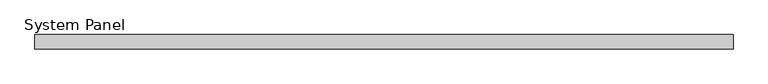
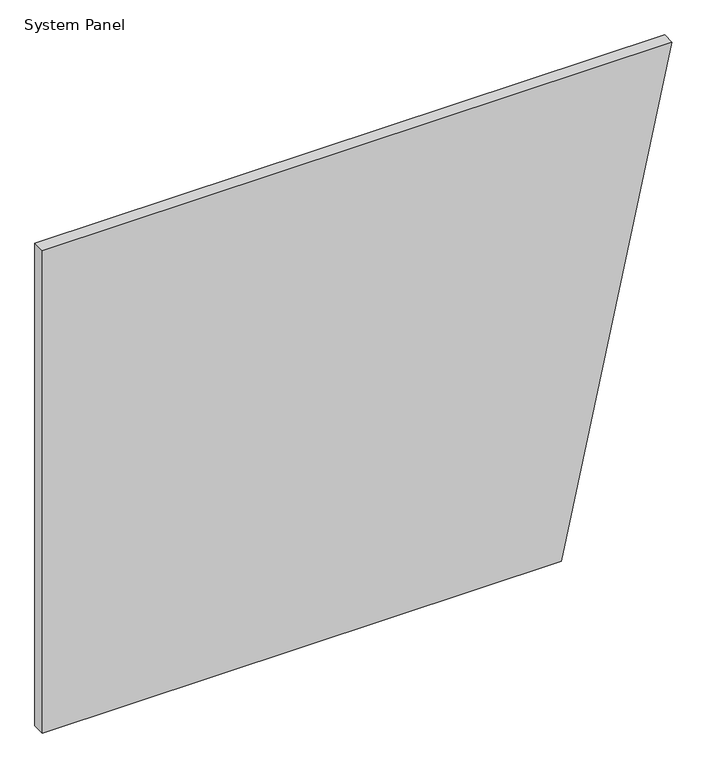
"""IFC4 building model written with IfcOpenShell, lengths in millimetres: plate geometry, System Panel : Purline 25mm Horizontal - Plain RHEA - PUR."""

from ifc_helpers import new_model, si_unit, frame, origin, place, context, project, spatial, polyline, outline, extrude, source, transform, mapped, element, save


def system_panel_ed235954(model_context):
    return source(origin(), model_context, "Body", "SweptSolid", [
        extrude(outline(polyline([(0.0, -617.3930515), (0.0, 400.0), (1000.0, 617.3930515), (1000.0, -617.3930515), (0.0, -617.3930515)])), frame((0.0, -25.0, 0.0), z_axis=(0.0, 1.0, 0.0), x_axis=(0.0, 0.0, 1.0)), (0.0, 0.0, 1.0), 25.0),
    ])


if __name__ == "__main__":
    model = new_model("IFC4")
    model_context = context("Model", 3, world=origin())
    ifc_project = project(units=[si_unit("LENGTHUNIT", "METRE", prefix="MILLI")], contexts=[model_context])
    site = spatial("IfcSite", under=ifc_project)
    building = spatial("IfcBuilding", under=site)
    placement = place(None, origin())
    system_panel_shape = system_panel_ed235954(model_context)
    element("IfcPlate", 1, ObjectType="System Panel : Purline 25mm Horizontal - Plain RHEA - PUR", at=placement, inside=building, context=model_context, shape_type="MappedRepresentation", body=[
        mapped(system_panel_shape, transform((0.0, 0.0, 0.0), x_axis=(1.0, 0.0, 0.0), y_axis=(0.0, 1.0, 0.0), z_axis=(0.0, 0.0, 1.0))),
    ])
    save(model, "model.ifc")
